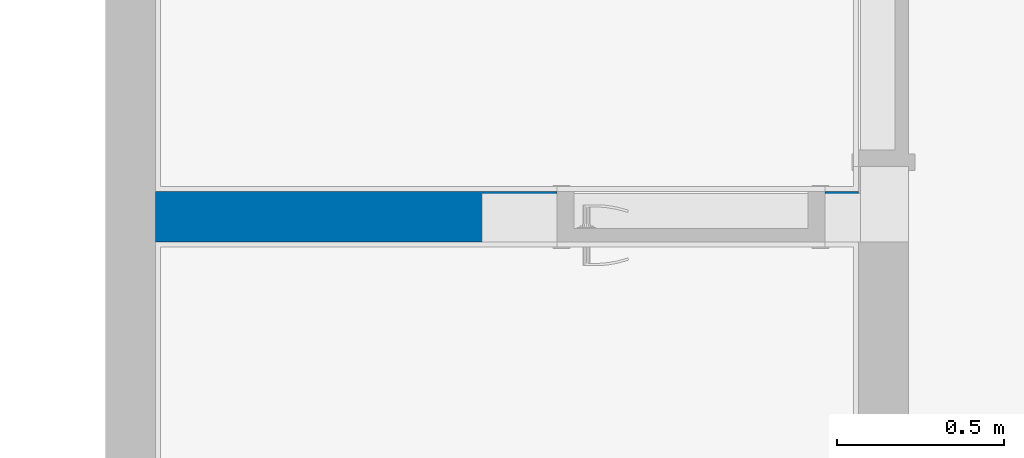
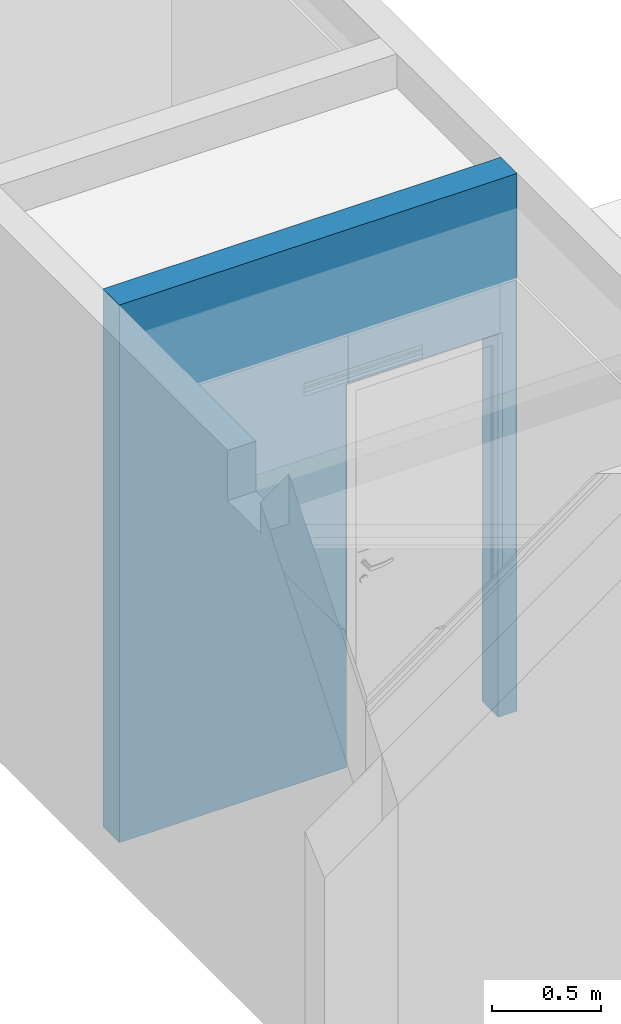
# One storey, part 8 of 17: 1 wall, 1 opening.
"""IFC4 building model written with IfcOpenShell, lengths in millimetres."""

from ifc_helpers import new_model, entity, si_unit, converted_unit, derived_unit, direction, frame, origin_with_axes, place, context, subcontext, project, spatial, polygons, material, constituent, constituent_set, type_object, element, save


model = new_model("IFC4")

# Units and contexts
model_context = context("Model", 3, precision=0.01, world=origin_with_axes(), true_north=direction((0.0, 1.0)))
body_context = subcontext(model_context, "Body", "Model", "MODEL_VIEW")
ifc_project = project(units=[si_unit("LENGTHUNIT", "METRE", prefix="MILLI"), si_unit("AREAUNIT", "SQUARE_METRE"), si_unit("VOLUMEUNIT", "CUBIC_METRE"), converted_unit("PLANEANGLEUNIT", "DEGREE", entity("IfcPlaneAngleMeasure", 0.0174532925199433), si_unit("PLANEANGLEUNIT", "RADIAN"), dimensions=[0, 0, 0, 0, 0, 0, 0]), converted_unit("TIMEUNIT", "Year", entity("IfcTimeMeasure", 31557600.0), si_unit("TIMEUNIT", "SECOND"), dimensions=[0, 0, 1, 0, 0, 0, 0]), si_unit("MASSUNIT", "GRAM", prefix="KILO"), si_unit("THERMODYNAMICTEMPERATUREUNIT", "DEGREE_CELSIUS"), si_unit("LUMINOUSINTENSITYUNIT", "LUMEN"), si_unit("ENERGYUNIT", "JOULE", prefix="MEGA"), derived_unit("THERMALCONDUCTANCEUNIT", [(si_unit("POWERUNIT", "WATT"), 1), (si_unit("LENGTHUNIT", "METRE"), -1), (si_unit("THERMODYNAMICTEMPERATUREUNIT", "KELVIN"), -1)]), derived_unit("SPECIFICHEATCAPACITYUNIT", [(si_unit("ENERGYUNIT", "JOULE"), 1), (si_unit("MASSUNIT", "GRAM", prefix="KILO"), -1), (si_unit("THERMODYNAMICTEMPERATUREUNIT", "KELVIN"), -1)]), derived_unit("MASSDENSITYUNIT", [(si_unit("MASSUNIT", "GRAM", prefix="KILO"), 1), (si_unit("VOLUMEUNIT", "CUBIC_METRE"), -1)])], contexts=[model_context])

# Site, building, storey
site_placement = place(None, origin_with_axes())
site = spatial("IfcSite", under=ifc_project, at=site_placement, Name="Exteriér", CompositionType="ELEMENT")
building_placement = place(site_placement, origin_with_axes())
building = spatial("IfcBuilding", under=site, at=building_placement, Name="Univerzitní lezecké centrum", CompositionType="ELEMENT")
storey_placement = place(building_placement, frame((0.0, 0.0, 3200.0), z_axis=(0.0, 0.0, 1.0), x_axis=(1.0, 0.0, 0.0)))
storey = spatial("IfcBuildingStorey", under=building, at=storey_placement, Name="2.NP", CompositionType="ELEMENT", Elevation=3200.0)

# Wall, opening
ifc_material = material(Name="Keramické tvárnice nenosné tl. 150 mm")
ifc_constituent = constituent(ifc_material, Name="Keramické tvárnice nenosné tl. 150 mm")
ifc_constituent_set = constituent_set(constituents=[ifc_constituent], Name="!Vnitřní keramická stěna 150 mm - nenosná**")
wall_type = type_object("IfcWallType", Name="!Vnitřní keramická stěna 150 mm - nenosná** 150", PredefinedType="NOTDEFINED")
wall_placement = place(storey_placement, frame((-5250.148351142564, 1250.11796603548, -120.000000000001), z_axis=(0.0, 0.0, 1.0), x_axis=(0.9999999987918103, -4.91566810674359e-05, 0.0)))
wall = element("IfcWall", 1, at=wall_placement, inside=storey, type_object=wall_type, material=ifc_constituent_set, Name="St07**", PredefinedType="NOTDEFINED", context=body_context, shape_type="Tessellation", body=[
    polygons([(1349.796587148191, 0.0, 0.500000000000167), (1349.796587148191, 149.9999999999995, 0.500000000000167), (1349.796587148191, 149.9999999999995, 120.000000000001), (1349.796587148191, 0.0, 120.000000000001), (1349.796587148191, 149.9999999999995, 0.0), (1349.796587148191, 0.0, 0.0), (2149.796587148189, 149.9999999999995, 0.0), (2149.796587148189, 149.9999999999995, 0.500000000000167), (2149.79658714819, 149.9999999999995, 120.000000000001), (2149.79658714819, 149.9999999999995, 2140.000000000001), (1349.796587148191, 149.9999999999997, 2140.000000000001), (149.9926266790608, 149.9999999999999, 0.0), (149.9926266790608, 150.0000000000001, 2999.999999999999), (2249.789213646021, 149.9999999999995, 2999.999999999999), (2249.789213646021, 149.9999999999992, 0.0), (1349.796587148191, 0.0, 2140.000000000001), (2149.796587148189, 0.0, 0.500000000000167), (2149.796587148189, 0.0, 0.0), (2249.79658714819, 0.0, 0.0), (2249.79658714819, 0.0, 2999.999999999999), (150.0000001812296, 0.0, 2999.999999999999), (150.0000001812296, 0.0, 0.0), (2149.79658714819, 0.0, 2140.000000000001), (2149.79658714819, 0.0, 120.000000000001), (1749.796587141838, 0.0, 2150.000000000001), (1124.796586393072, 0.0, 2150.000000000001), (1124.796586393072, 0.0, 2221.0), (1749.796587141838, 0.0, 2221.0), (2249.796585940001, 0.02457834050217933, 2221.0), (2249.789493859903, 144.2995768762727, 2221.0), (2249.789493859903, 144.2995768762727, 2150.000000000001), (2249.796585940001, 0.02457834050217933, 2150.000000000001), (1124.789495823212, 144.2442756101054, 2150.000000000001), (1124.789495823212, 144.2442756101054, 2221.0), (1124.794949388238, 33.30177703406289, 2160.49963740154), (1124.796025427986, 11.41177706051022, 2160.49963740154), (1124.796025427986, 11.41177706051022, 2180.499637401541), (1124.794949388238, 33.30177703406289, 2180.499637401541), (1124.794949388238, 33.30177703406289, 2190.5), (1124.796025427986, 11.41177706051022, 2190.5), (1124.796025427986, 11.41177706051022, 2210.500000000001), (1124.794949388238, 33.30177703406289, 2210.500000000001), (1124.790058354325, 132.8006406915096, 2180.499637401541), (1124.790058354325, 132.8006406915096, 2160.49963740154), (1124.791134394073, 110.9106407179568, 2160.49963740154), (1124.791134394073, 110.9106407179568, 2180.499637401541), (1124.791134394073, 110.9106407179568, 2190.5), (1124.791134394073, 110.9106407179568, 2210.500000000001), (1124.790058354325, 132.8006406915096, 2210.500000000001), (1124.790058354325, 132.8006406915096, 2190.5), (2249.794947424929, 33.35707830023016, 2160.49963740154), (2249.796023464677, 11.46707832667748, 2160.49963740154), (2249.796023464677, 11.46707832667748, 2180.499637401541), (2249.794947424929, 33.35707830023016, 2180.499637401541), (2249.794947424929, 33.35707830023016, 2190.5), (2249.796023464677, 11.46707832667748, 2190.5), (2249.796023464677, 11.46707832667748, 2210.500000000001), (2249.794947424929, 33.35707830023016, 2210.500000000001), (2249.790056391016, 132.8559419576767, 2180.499637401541), (2249.790056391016, 132.8559419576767, 2160.49963740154), (2249.791132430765, 110.965941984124, 2160.49963740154), (2249.791132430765, 110.965941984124, 2180.499637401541), (2249.791132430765, 110.965941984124, 2190.5), (2249.791132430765, 110.965941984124, 2210.500000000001), (2249.790056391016, 132.8559419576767, 2210.500000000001), (2249.790056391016, 132.8559419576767, 2190.5)], [[[1, 2, 3, 4]], [[5, 2, 1, 6]], [[7, 8, 9, 10, 11, 3, 2, 5, 12, 13, 14, 15]], [[16, 4, 3, 11]], [[17, 18, 19, 20, 21, 22, 6, 1, 4, 16, 23, 24], [25, 26, 27, 28]], [[5, 6, 22, 12]], [[17, 8, 7, 18]], [[8, 17, 24, 9]], [[24, 23, 10, 9]], [[23, 16, 11, 10]], [[12, 22, 21, 13]], [[21, 20, 14, 13]], [[15, 14, 20, 19], [29, 30, 31, 32]], [[18, 7, 15, 19]], [[25, 32, 31, 33, 26]], [[34, 27, 26, 33], [35, 36, 37, 38], [39, 40, 41, 42], [43, 44, 45, 46], [47, 48, 49, 50]], [[28, 27, 34, 30, 29]], [[28, 29, 32, 25]], [[33, 31, 30, 34]], [[35, 51, 52, 36]], [[36, 52, 53, 37]], [[37, 53, 54, 38]], [[38, 54, 51, 35]], [[39, 55, 56, 40]], [[40, 56, 57, 41]], [[41, 57, 58, 42]], [[42, 58, 55, 39]], [[43, 59, 60, 44]], [[44, 60, 61, 45]], [[45, 61, 62, 46]], [[46, 62, 59, 43]], [[47, 63, 64, 48]], [[48, 64, 65, 49]], [[49, 65, 66, 50]], [[50, 66, 63, 47]], [[53, 52, 51, 54]], [[57, 56, 55, 58]], [[62, 61, 60, 59]], [[64, 63, 66, 65]]], closed=True),
])
opening_placement = place(wall_placement, frame((1749.79658714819, 0.0, 120.000000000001), z_axis=(0.0, 0.0, 1.0), x_axis=(1.0, 0.0, 0.0)))
element("IfcOpeningElement", 2, at=opening_placement, cuts=wall, Name="D05", context=body_context, identifier="Reference", shape_type="Tessellation", body=[
    polygons([(-399.9999999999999, 0.0, 2020.0), (399.9999999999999, 0.0, 2020.0), (400.0000000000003, 149.9999999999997, 2020.0), (-399.9999999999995, 150.0000000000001, 2020.0), (399.9999999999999, 0.0, 0.0), (-399.9999999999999, 0.0, 0.0), (-411.9999999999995, 0.0, 0.0), (-411.9999999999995, 0.0, 2032.0), (412.0000000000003, 0.0, 2032.0), (412.0000000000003, 0.0, 0.0), (400.0000000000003, 149.9999999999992, 0.0), (412.0000000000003, 149.9999999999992, 0.0), (412.0000000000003, 149.9999999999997, 2032.0), (-411.9999999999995, 149.9999999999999, 2032.0), (-411.9999999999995, 149.9999999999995, 0.0), (-399.9999999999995, 149.9999999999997, 0.0), (-399.9999999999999, -1.117966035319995, 0.0), (-411.9999999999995, -1.117966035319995, 0.0), (-411.9999999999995, -1.117966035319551, 2032.0), (412.0000000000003, -1.117966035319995, 2032.0), (412.0000000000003, -1.117966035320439, 0.0), (399.9999999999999, -1.117966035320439, 0.0), (-399.9999999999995, 151.1179660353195, 0.0), (400.0000000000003, 151.117966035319, 0.0), (411.9999999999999, 151.117966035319, 0.0), (411.9999999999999, 151.1179660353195, 2032.0), (-411.9999999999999, 151.1179660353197, 2032.0), (-411.9999999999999, 151.1179660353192, 0.0), (-399.9999999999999, -1.117966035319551, 2020.0), (399.9999999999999, -1.117966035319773, 2020.0)], [[[1, 2, 3, 4]], [[5, 2, 1, 6, 7, 8, 9, 10]], [[2, 5, 11, 3]], [[4, 3, 11, 12, 13, 14, 15, 16]], [[6, 1, 4, 16]], [[6, 17, 18, 7]], [[8, 7, 18, 19]], [[9, 8, 19, 20]], [[10, 9, 20, 21]], [[22, 5, 10, 21]], [[17, 6, 16, 23, 24, 11, 5, 22]], [[11, 24, 25, 12]], [[13, 12, 25, 26]], [[14, 13, 26, 27]], [[15, 14, 27, 28]], [[23, 16, 15, 28]], [[29, 30, 22, 21, 20, 19, 18, 17]], [[24, 23, 28, 27, 26, 25]], [[29, 17, 22, 30]]], closed=True),
])

save(model, "model.ifc")
